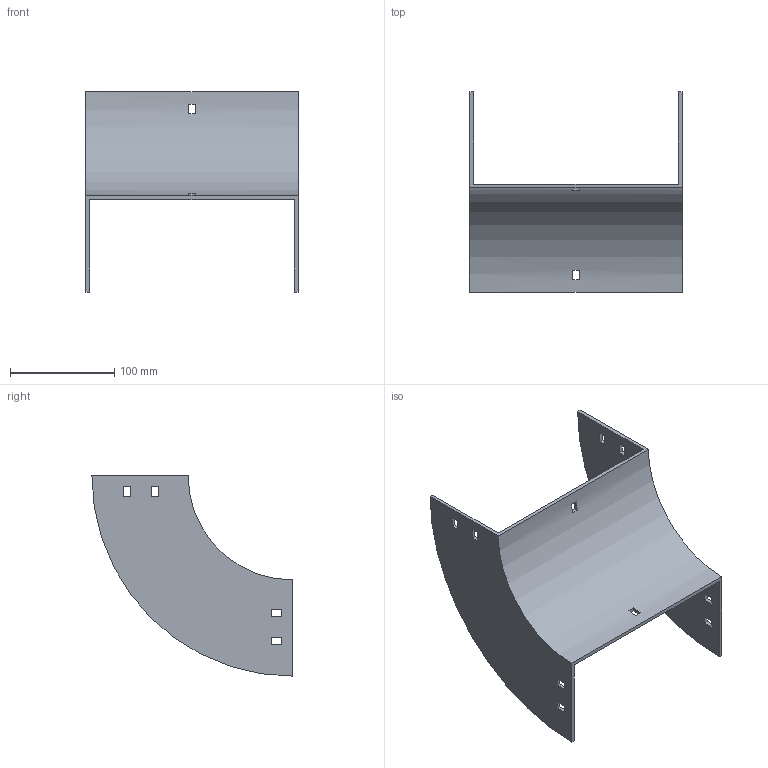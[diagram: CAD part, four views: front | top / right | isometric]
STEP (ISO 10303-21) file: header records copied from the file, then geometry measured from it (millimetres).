
FILE_DESCRIPTION (( 'STEP AP214' ), '1' );
FILE_NAME ('33B1I200.step', '2025-02-21T09:33:04', ( '' ), ( '' ), 'SwSTEP 2.0', 'SolidWorks 2023', '' );
FILE_SCHEMA (( 'AUTOMOTIVE_DESIGN' ));
Length unit declared in the file: millimetre
Products named in the file (1): 33B1I200
Bounding box: 204 x 192.5 x 192.5 mm (x, y, z)
Volume: 256576.1 mm3; surface area: 152558.4 mm2
Topology: 1 solids, 1 shells, 50 faces, 144 edges, 96 vertices
Faces by surface type: plane 46, cylinder 4
Entity records: 1687 total; most frequent: CARTESIAN_POINT 291, ORIENTED_EDGE 288, DIRECTION 262, EDGE_CURVE 144, LINE 128, VECTOR 128, VERTEX_POINT 96, EDGE_LOOP 70
